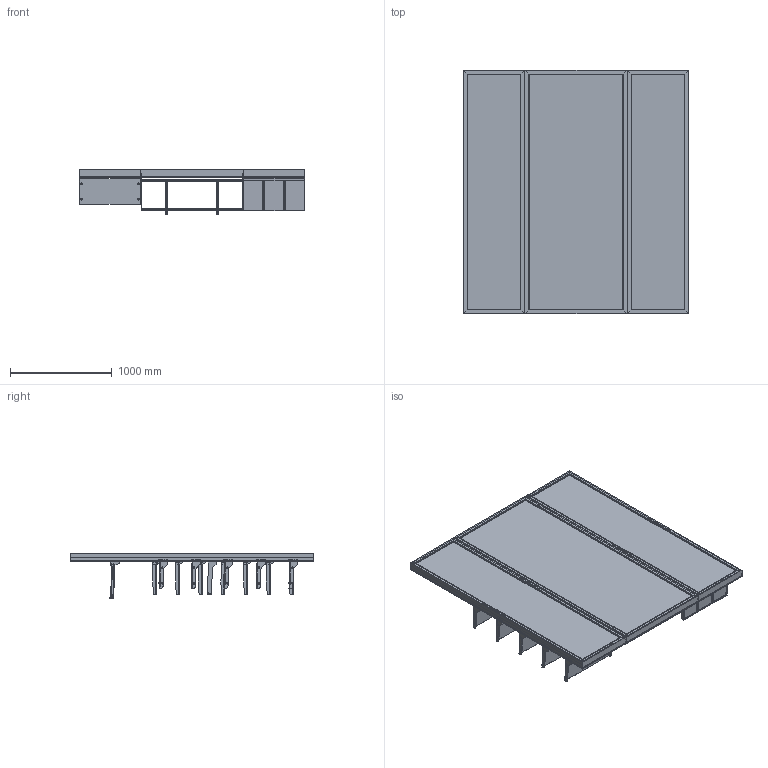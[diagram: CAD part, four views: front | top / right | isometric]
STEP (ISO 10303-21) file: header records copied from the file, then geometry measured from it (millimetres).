
FILE_DESCRIPTION (( 'STEP AP203' ), '1' );
FILE_NAME ('Complete Fashion Retail Merchandising Wall (Set 1).STEP', '2026-03-31T14:30:34', ( '' ), ( '' ), 'SwSTEP 2.0', 'SolidWorks 2025', '' );
FILE_SCHEMA (( 'CONFIG_CONTROL_DESIGN' ));
Length unit declared in the file: millimetre
Products named in the file (38): 365-01-GA01_2; Complete Fashion Retail Merchandising Wall (Set 1); 0001-31-SA29.STEP; 0001-31-100.STEP; 0001-31-SA26 - 1005W Rear support Bar.STEP; 0001-31-SA26 - 1005W Rear support Bar_Assem8; Single Illuminated Cap & Hat Retail Display_Assem5; 0001-31-112.STEP; 365-01-05_默认; 0001-31-SA28 - 610W Glass Shelf_Assem5; 0001-31-SA27 - Forward Facing Arm_Assem11; 0001-31-104.STEP; Narrow Illuminated Glass Footwear Retail Display_Assem6; 365-01-01_默认; 0001-31-114.STEP; 0001-31-SA28 - 610W Glass Shelf.STEP; Heavy-Duty Single Clothing Display Wall (Config 2)_Assem7; 0001-31-103.STEP; 365-01-06_默认; 365-01-02_默认; 0001-31-110.STEP; 365-01-03_默认; 365-01-04_默认; 365-01-10_默认; 0001-31-123.STEP; 0001-31-115.STEP; 365-01-07_默认; 0001-31-124.STEP; 0001-31-SA25 - 1005W Side Facing D Rail.STEP; 0001-31-SA27 - Forward Facing Arm.STEP; 0001-31-GA10 - 1005W Slotted upbright; 0001-31-GA01 - 610W Slotted Upright; 0001-31-SA25 - 1005W Side Facing D Rail_Assem9; 0001-31-130.STEP; 0001-31-131.STEP; 365-01-08_默认; 0000-31-113.STEP; 0001-31-SA30.STEP
Assembly tree (69 placements, depth 6):
  Complete Fashion Retail Merchandising Wall (Set 1)
    Single Illuminated Cap & Hat Retail Display_Assem5
      0001-31-GA01 - 610W Slotted Upright
      365-01-GA01_2  x7
        365-01-01_默认
        365-01-02_默认
        365-01-03_默认
        365-01-04_默认
        365-01-05_默认
        365-01-06_默认
        365-01-07_默认
        365-01-08_默认
        365-01-10_默认
    Heavy-Duty Single Clothing Display Wall (Config 2)_Assem7
      0001-31-GA10 - 1005W Slotted upbright
      0001-31-SA27 - Forward Facing Arm_Assem11  x2
        0001-31-SA27 - Forward Facing Arm.STEP
          0001-31-104.STEP
          0001-31-112.STEP
          0001-31-110.STEP
      0001-31-SA25 - 1005W Side Facing D Rail_Assem9
        0001-31-SA25 - 1005W Side Facing D Rail.STEP
          0001-31-100.STEP  x2
          0001-31-130.STEP
      0001-31-SA26 - 1005W Rear support Bar_Assem8
        0001-31-SA26 - 1005W Rear support Bar.STEP
          0001-31-103.STEP  x2
          0001-31-131.STEP
    Narrow Illuminated Glass Footwear Retail Display_Assem6
      0001-31-GA01 - 610W Slotted Upright
      0001-31-SA28 - 610W Glass Shelf_Assem5  x5
        0001-31-SA28 - 610W Glass Shelf.STEP
          0001-31-SA29.STEP
            0000-31-113.STEP
            0001-31-114.STEP  x2
          0001-31-SA30.STEP
            0000-31-113.STEP
            0001-31-114.STEP  x2
          0001-31-115.STEP
          0001-31-123.STEP  x8
          0001-31-124.STEP  x4
Bounding box: 2225.24 x 2400 x 436.21 mm (x, y, z)
Volume: 30752483.9 mm3; surface area: 35704197.4 mm2
Topology: 216 solids, 216 shells, 4878 faces, 13450 edges, 8748 vertices
Faces by surface type: plane 3560, cylinder 1210, cone 80, bspline 28
Entity records: 56336 total; most frequent: CARTESIAN_POINT 10064, ORIENTED_EDGE 9288, DIRECTION 7672, EDGE_CURVE 4644, LINE 4208, VECTOR 4208, VERTEX_POINT 3068, AXIS2_PLACEMENT_3D 1732
